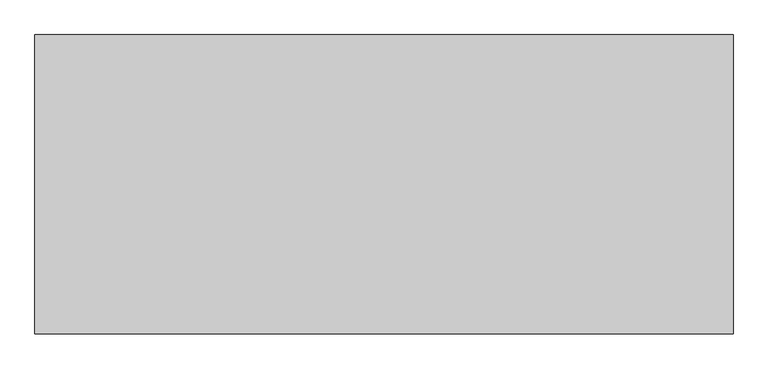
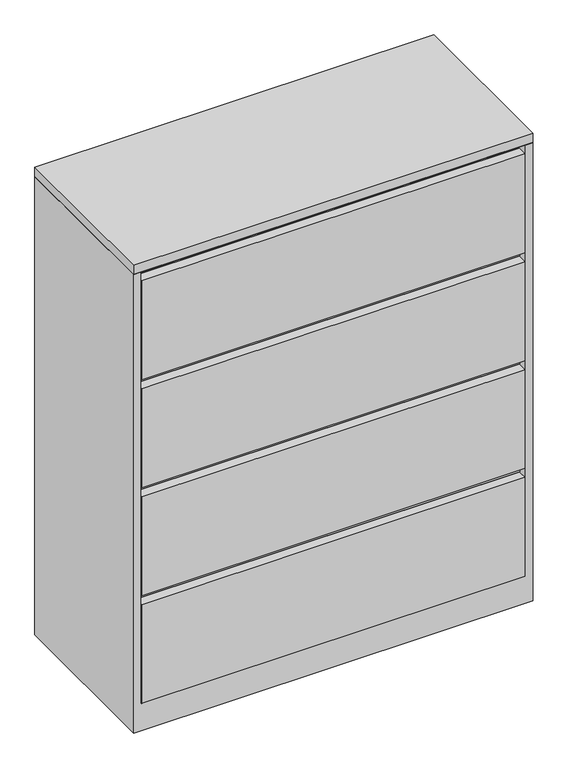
"""IFC4 building model written with IfcOpenShell, lengths in millimetres: furniture geometry, Steelcase - 900 Series - Storage - Lateral File With Drawer - 40H-52H - Flush Steel : 52H x 42W."""

from ifc_helpers import new_model, si_unit, frame, origin, place, context, project, spatial, polyline, outline, extrude, faceted_brep, source, transform, mapped, element, save


def furniture_748c565c(model_context):
    return source(origin(), model_context, "Body", "SolidModel", [
        extrude(outline(polyline([(1066.8, 0.0), (1066.8, -457.2), (0.0, -457.2), (0.0, 0.0), (1066.8, 0.0)])), frame((0.0, 0.0, 1295.3999516), z_axis=(0.0, 0.0, 1.0), x_axis=(1.0, 0.0, 0.0)), (0.0, 0.0, 1.0), 25.4),
        faceted_brep([(1047.4960184, -25.2721219, 1293.876), (1047.4960184, -457.2, 1293.876), (1066.8, -457.2, 1293.876), (1066.8, 0.0, 1293.876), (0.0, 0.0, 1293.876), (0.0, -457.2, 1293.876), (19.3039998, -457.2, 1293.876), (19.3039998, -25.2721219, 1293.876), (0.0, -457.2, 0.0), (0.0, 0.0, 0.0), (1066.8, 0.0, 0.0), (1066.8, -457.2, 0.0), (1047.4960184, -25.2721219, 381.0), (1047.4960184, -431.800255, 381.0), (1047.4960184, -431.800255, 355.6), (1047.4960184, -25.2721219, 355.6), (1047.4960184, -25.2721219, 76.2), (1047.4960184, -457.2, 76.2), (19.3039998, -457.2, 76.2), (19.3039998, -25.2721219, 76.2), (19.3039998, -25.2721219, 355.6), (19.3039998, -431.800255, 355.6), (19.3039998, -431.800255, 381.0), (19.3039998, -25.2721219, 381.0)], [[[0, 1, 2, 3, 4, 5, 6, 7]], [[8, 9, 10, 11]], [[1, 0, 12, 13, 14, 15, 16, 17]], [[2, 1, 17, 18, 6, 5, 8, 11]], [[3, 2, 11, 10]], [[4, 3, 10, 9]], [[5, 4, 9, 8]], [[7, 6, 18, 19, 20, 21, 22, 23]], [[0, 7, 23, 12]], [[16, 15, 20, 19]], [[18, 17, 16, 19]], [[22, 13, 12, 23]], [[13, 22, 21, 14]], [[14, 21, 20, 15]]]),
        extrude(outline(polyline([(1045.9722015, -457.2), (20.8289612, -457.2), (20.8289612, -431.800255), (1045.9722015, -431.800255), (1045.9722015, -457.2)])), frame((0.0, 0.0, 1293.876), z_axis=(0.0, 0.0, 1.0), x_axis=(1.0, 0.0, 0.0)), (0.0, 0.0, 1.0), 1.524),
        extrude(outline(polyline([(1047.4960184, -25.2721219), (1047.4960184, -431.800255), (19.3039998, -431.800255), (19.3039998, -25.2721219), (1047.4960184, -25.2721219)])), frame((0.0, 0.0, 660.4), z_axis=(0.0, 0.0, 1.0), x_axis=(1.0, 0.0, 0.0)), (0.0, 0.0, 1.0), 25.4),
        extrude(outline(polyline([(1045.9722015, -457.2), (20.8289612, -457.2), (20.8289612, -431.800255), (1045.9722015, -431.800255), (1045.9722015, -457.2)])), frame((0.0, 0.0, 990.6), z_axis=(0.0, 0.0, 1.0), x_axis=(1.0, 0.0, 0.0)), (0.0, 0.0, 1.0), 279.4),
        extrude(outline(polyline([(1045.9722015, -457.2), (20.8289612, -457.2), (20.8289612, -431.800255), (1045.9722015, -431.800255), (1045.9722015, -457.2)])), frame((0.0, 0.0, 685.8), z_axis=(0.0, 0.0, 1.0), x_axis=(1.0, 0.0, 0.0)), (0.0, 0.0, 1.0), 279.4),
        extrude(outline(polyline([(1047.4960184, -25.2721219), (1047.4960184, -431.800255), (19.3039998, -431.800255), (19.3039998, -25.2721219), (1047.4960184, -25.2721219)])), frame((0.0, 0.0, 965.2), z_axis=(0.0, 0.0, 1.0), x_axis=(1.0, 0.0, 0.0)), (0.0, 0.0, 1.0), 25.4),
        extrude(outline(polyline([(1047.4960184, -25.2721219), (1047.4960184, -431.800255), (20.8289612, -431.800255), (20.8289612, -25.2721219), (1047.4960184, -25.2721219)])), frame((0.0, 0.0, 1293.876), z_axis=(0.0, 0.0, 1.0), x_axis=(1.0, 0.0, 0.0)), (0.0, 0.0, 1.0), 1.5239516),
        extrude(outline(polyline([(1045.9722015, -457.2), (20.8289612, -457.2), (20.8289612, -431.800255), (1045.9722015, -431.800255), (1045.9722015, -457.2)])), frame((0.0, 0.0, 76.2), z_axis=(0.0, 0.0, 1.0), x_axis=(1.0, 0.0, 0.0)), (0.0, 0.0, 1.0), 279.4),
        extrude(outline(polyline([(1045.9722015, -457.2), (20.8289612, -457.2), (20.8289612, -431.800255), (1045.9722015, -431.800255), (1045.9722015, -457.2)])), frame((0.0, 0.0, 381.0), z_axis=(0.0, 0.0, 1.0), x_axis=(1.0, 0.0, 0.0)), (0.0, 0.0, 1.0), 279.4),
    ])


if __name__ == "__main__":
    model = new_model("IFC4")
    model_context = context("Model", 3, world=origin())
    ifc_project = project(units=[si_unit("LENGTHUNIT", "METRE", prefix="MILLI")], contexts=[model_context])
    site = spatial("IfcSite", under=ifc_project)
    building = spatial("IfcBuilding", under=site)
    placement = place(None, origin())
    furniture_shape = furniture_748c565c(model_context)
    element("IfcFurniture", 1, ObjectType="Steelcase - 900 Series - Storage - Lateral File With Drawer - 40H-52H - Flush Steel : 52H x 42W", at=placement, inside=building, context=model_context, shape_type="MappedRepresentation", body=[
        mapped(furniture_shape, transform((0.0, 0.0, 0.0), x_axis=(1.0, 0.0, 0.0), y_axis=(0.0, 1.0, 0.0), z_axis=(0.0, 0.0, 1.0))),
    ])
    save(model, "model.ifc")
